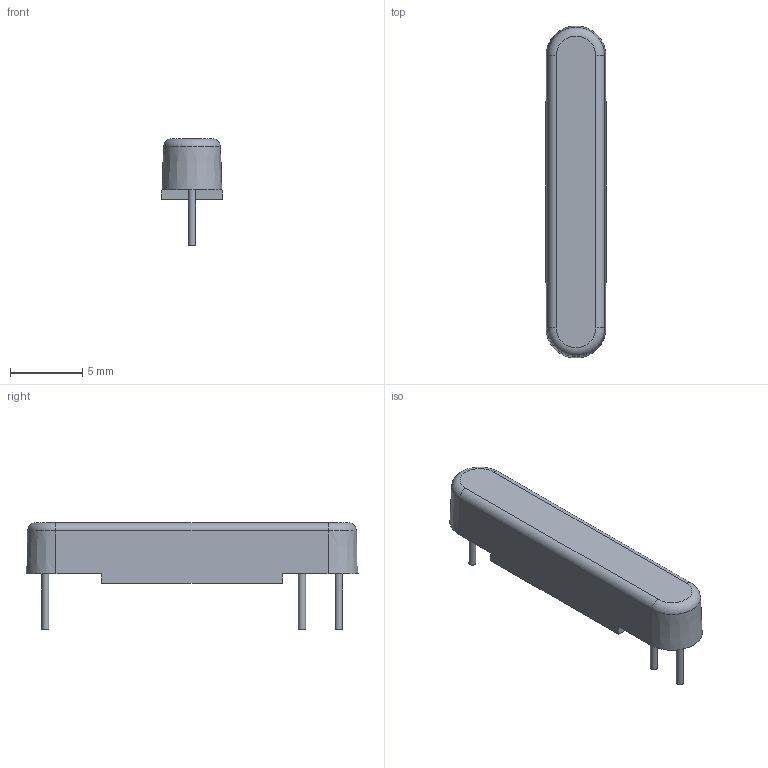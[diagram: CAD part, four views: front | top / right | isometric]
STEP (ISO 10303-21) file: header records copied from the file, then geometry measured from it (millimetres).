
FILE_DESCRIPTION((''),'2;1');
FILE_NAME('C:\Vault_local\Designs\Stock\3D pour clients\préparations\2D3D 504 A.stp','2009-08-05T11:01:14',('Georges THOLLOT ','Responsable ','Mthodes et Industrialisation',' Tl : +33 (0)4 77 53 90 27','gthollot@celduc.com'),('Celduc r e l a i s','5, rue Ampre, BP 30004','42290 SORBIERS - France','Fax. : +33 (0)4 77 53 85 51','N siret 353 310 519 00015','ISO 9001 N QUAL/1993/1106b','www.celduc.com'),'Autodesk Inventor 2009','Autodesk Inventor 2009','');
FILE_SCHEMA(('AUTOMOTIVE_DESIGN { 1 0 10303 214 1 1 1 1 }'));
Length unit declared in the file: millimetre
Products named in the file (1): PHC
Bounding box: 4.2 x 23 x 7.4 mm (x, y, z)
Volume: 347.6 mm3; surface area: 384.7 mm2
Topology: 1 solids, 1 shells, 20 faces, 41 edges, 26 vertices
Faces by surface type: plane 11, cylinder 5, torus 2, cone 2
Full cylindrical faces by diameter (mm): 0.5 x3
Entity records: 578 total; most frequent: DIRECTION 96, CARTESIAN_POINT 85, ORIENTED_EDGE 76, EDGE_CURVE 38, AXIS2_PLACEMENT_3D 37, VERTEX_POINT 26, EDGE_LOOP 26, VECTOR 22
